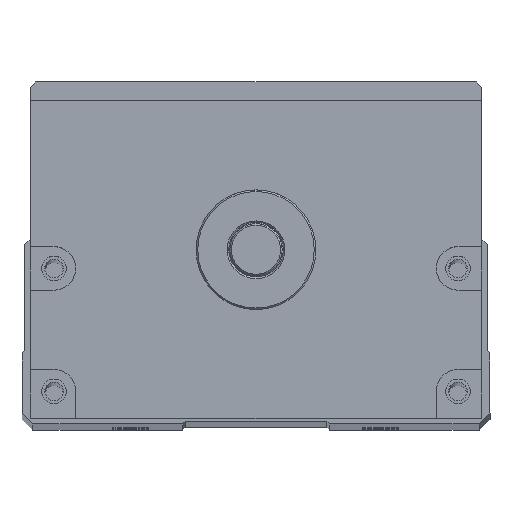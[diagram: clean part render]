
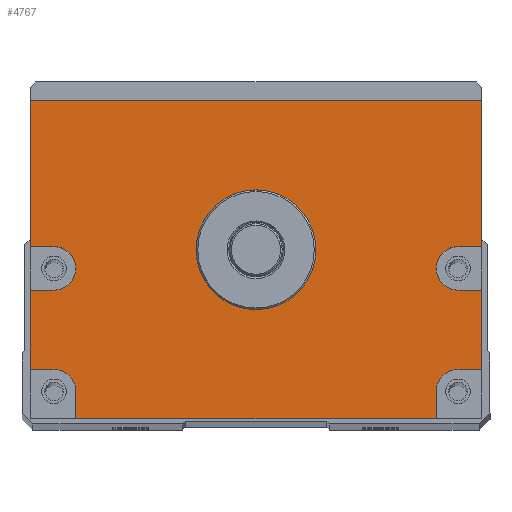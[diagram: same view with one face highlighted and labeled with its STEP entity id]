
A CAD part, top view. The second image highlights one B-rep face of the part: STEP entity #4767.
In plain terms, the highlighted planar face has unit normal (0, 0, 1).
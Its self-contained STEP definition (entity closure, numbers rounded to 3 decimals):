
#3458=FACE_BOUND('',#6279,.T.);
#3459=FACE_BOUND('',#6280,.T.);
#3930=CIRCLE('',#14069,11.);
#3941=CIRCLE('',#14083,4.);
#3942=CIRCLE('',#14084,4.);
#3943=CIRCLE('',#14085,4.);
#3944=CIRCLE('',#14086,4.);
#4767=ADVANCED_FACE('',(#3458,#3459),#5206,.T.);
#5206=PLANE('',#14087);
#6279=EDGE_LOOP('',(#8468,#8469,#8470,#8471,#8472,#8473,#8474,#8475,#8476,
#8477,#8478,#8479,#8480,#8481,#8482,#8483,#8484,#8485));
#6280=EDGE_LOOP('',(#8486));
#8468=ORIENTED_EDGE('',*,*,#11487,.F.);
#8469=ORIENTED_EDGE('',*,*,#11488,.T.);
#8470=ORIENTED_EDGE('',*,*,#11489,.F.);
#8471=ORIENTED_EDGE('',*,*,#11490,.F.);
#8472=ORIENTED_EDGE('',*,*,#11491,.F.);
#8473=ORIENTED_EDGE('',*,*,#11492,.T.);
#8474=ORIENTED_EDGE('',*,*,#11483,.T.);
#8475=ORIENTED_EDGE('',*,*,#11493,.T.);
#8476=ORIENTED_EDGE('',*,*,#11494,.F.);
#8477=ORIENTED_EDGE('',*,*,#11495,.F.);
#8478=ORIENTED_EDGE('',*,*,#11496,.F.);
#8479=ORIENTED_EDGE('',*,*,#11497,.T.);
#8480=ORIENTED_EDGE('',*,*,#11498,.F.);
#8481=ORIENTED_EDGE('',*,*,#11499,.F.);
#8482=ORIENTED_EDGE('',*,*,#11500,.F.);
#8483=ORIENTED_EDGE('',*,*,#11501,.T.);
#8484=ORIENTED_EDGE('',*,*,#11502,.F.);
#8485=ORIENTED_EDGE('',*,*,#11503,.F.);
#8486=ORIENTED_EDGE('',*,*,#11469,.T.);
#10166=VERTEX_POINT('',#20475);
#10179=VERTEX_POINT('',#20503);
#10180=VERTEX_POINT('',#20505);
#10183=VERTEX_POINT('',#20513);
#10184=VERTEX_POINT('',#20514);
#10185=VERTEX_POINT('',#20516);
#10186=VERTEX_POINT('',#20518);
#10187=VERTEX_POINT('',#20520);
#10188=VERTEX_POINT('',#20522);
#10189=VERTEX_POINT('',#20525);
#10190=VERTEX_POINT('',#20527);
#10191=VERTEX_POINT('',#20529);
#10192=VERTEX_POINT('',#20531);
#10193=VERTEX_POINT('',#20533);
#10194=VERTEX_POINT('',#20535);
#10195=VERTEX_POINT('',#20537);
#10196=VERTEX_POINT('',#20539);
#10197=VERTEX_POINT('',#20541);
#10198=VERTEX_POINT('',#20543);
#11469=EDGE_CURVE('',#10166,#10166,#3930,.T.);
#11483=EDGE_CURVE('',#10180,#10179,#12494,.T.);
#11487=EDGE_CURVE('',#10183,#10184,#12496,.T.);
#11488=EDGE_CURVE('',#10183,#10185,#12497,.T.);
#11489=EDGE_CURVE('',#10186,#10185,#12498,.T.);
#11490=EDGE_CURVE('',#10187,#10186,#3941,.T.);
#11491=EDGE_CURVE('',#10188,#10187,#12499,.T.);
#11492=EDGE_CURVE('',#10188,#10180,#12500,.T.);
#11493=EDGE_CURVE('',#10179,#10189,#12501,.T.);
#11494=EDGE_CURVE('',#10190,#10189,#12502,.T.);
#11495=EDGE_CURVE('',#10191,#10190,#3942,.T.);
#11496=EDGE_CURVE('',#10192,#10191,#12503,.T.);
#11497=EDGE_CURVE('',#10192,#10193,#12504,.T.);
#11498=EDGE_CURVE('',#10194,#10193,#12505,.T.);
#11499=EDGE_CURVE('',#10195,#10194,#3943,.T.);
#11500=EDGE_CURVE('',#10196,#10195,#12506,.T.);
#11501=EDGE_CURVE('',#10196,#10197,#12507,.T.);
#11502=EDGE_CURVE('',#10198,#10197,#12508,.T.);
#11503=EDGE_CURVE('',#10184,#10198,#3944,.T.);
#12494=LINE('',#20504,#13207);
#12496=LINE('',#20512,#13209);
#12497=LINE('',#20515,#13210);
#12498=LINE('',#20517,#13211);
#12499=LINE('',#20521,#13212);
#12500=LINE('',#20523,#13213);
#12501=LINE('',#20524,#13214);
#12502=LINE('',#20526,#13215);
#12503=LINE('',#20530,#13216);
#12504=LINE('',#20532,#13217);
#12505=LINE('',#20534,#13218);
#12506=LINE('',#20538,#13219);
#12507=LINE('',#20540,#13220);
#12508=LINE('',#20542,#13221);
#13207=VECTOR('',#16252,1.);
#13209=VECTOR('',#16260,1.);
#13210=VECTOR('',#16261,1.);
#13211=VECTOR('',#16262,1.);
#13212=VECTOR('',#16265,1.);
#13213=VECTOR('',#16266,1.);
#13214=VECTOR('',#16267,1.);
#13215=VECTOR('',#16268,1.);
#13216=VECTOR('',#16271,1.);
#13217=VECTOR('',#16272,1.);
#13218=VECTOR('',#16273,1.);
#13219=VECTOR('',#16276,1.);
#13220=VECTOR('',#16277,1.);
#13221=VECTOR('',#16278,1.);
#14069=AXIS2_PLACEMENT_3D('',#20474,#16225,#16226);
#14083=AXIS2_PLACEMENT_3D('',#20519,#16263,#16264);
#14084=AXIS2_PLACEMENT_3D('',#20528,#16269,#16270);
#14085=AXIS2_PLACEMENT_3D('',#20536,#16274,#16275);
#14086=AXIS2_PLACEMENT_3D('',#20544,#16279,#16280);
#14087=AXIS2_PLACEMENT_3D('',#20545,#16281,#16282);
#16225=DIRECTION('',(0.,0.,-1.));
#16226=DIRECTION('',(1.,0.,0.));
#16252=DIRECTION('',(-1.,0.,0.));
#16260=DIRECTION('',(-1.,0.,0.));
#16261=DIRECTION('',(0.,1.,0.));
#16262=DIRECTION('',(1.,0.,0.));
#16263=DIRECTION('',(0.,0.,1.));
#16264=DIRECTION('',(1.,0.,0.));
#16265=DIRECTION('',(-1.,0.,0.));
#16266=DIRECTION('',(0.,1.,0.));
#16267=DIRECTION('',(0.,-1.,0.));
#16268=DIRECTION('',(-1.,0.,0.));
#16269=DIRECTION('',(0.,0.,1.));
#16270=DIRECTION('',(1.,0.,0.));
#16271=DIRECTION('',(1.,0.,0.));
#16272=DIRECTION('',(0.,-1.,0.));
#16273=DIRECTION('',(-1.,0.,0.));
#16274=DIRECTION('',(0.,0.,1.));
#16275=DIRECTION('',(1.,0.,0.));
#16276=DIRECTION('',(0.,1.,0.));
#16277=DIRECTION('',(1.,0.,0.));
#16278=DIRECTION('',(0.,-1.,0.));
#16279=DIRECTION('',(0.,0.,1.));
#16280=DIRECTION('',(1.,0.,0.));
#16281=DIRECTION('',(0.,0.,1.));
#16282=DIRECTION('',(1.,0.,0.));
#20474=CARTESIAN_POINT('',(300.,0.,482.5));
#20475=CARTESIAN_POINT('',(311.,0.,482.5));
#20503=CARTESIAN_POINT('',(258.5,27.5,482.5));
#20504=CARTESIAN_POINT('',(341.5,27.5,482.5));
#20505=CARTESIAN_POINT('',(341.5,27.5,482.5));
#20512=CARTESIAN_POINT('',(341.5,-22.,482.5));
#20513=CARTESIAN_POINT('',(341.5,-22.,482.5));
#20514=CARTESIAN_POINT('',(337.115,-22.,482.5));
#20515=CARTESIAN_POINT('',(341.5,-31.,482.5));
#20516=CARTESIAN_POINT('',(341.5,-7.431,482.5));
#20517=CARTESIAN_POINT('',(341.5,-7.431,482.5));
#20518=CARTESIAN_POINT('',(337.115,-7.431,482.5));
#20519=CARTESIAN_POINT('',(337.115,-3.431,482.5));
#20520=CARTESIAN_POINT('',(337.115,0.569,482.5));
#20521=CARTESIAN_POINT('',(341.5,0.569,482.5));
#20522=CARTESIAN_POINT('',(341.5,0.569,482.5));
#20523=CARTESIAN_POINT('',(341.5,-31.,482.5));
#20524=CARTESIAN_POINT('',(258.5,27.5,482.5));
#20525=CARTESIAN_POINT('',(258.5,0.569,482.5));
#20526=CARTESIAN_POINT('',(341.5,0.569,482.5));
#20527=CARTESIAN_POINT('',(262.885,0.569,482.5));
#20528=CARTESIAN_POINT('',(262.885,-3.431,482.5));
#20529=CARTESIAN_POINT('',(262.885,-7.431,482.5));
#20530=CARTESIAN_POINT('',(341.5,-7.431,482.5));
#20531=CARTESIAN_POINT('',(258.5,-7.431,482.5));
#20532=CARTESIAN_POINT('',(258.5,27.5,482.5));
#20533=CARTESIAN_POINT('',(258.5,-22.,482.5));
#20534=CARTESIAN_POINT('',(341.5,-22.,482.5));
#20535=CARTESIAN_POINT('',(262.885,-22.,482.5));
#20536=CARTESIAN_POINT('',(262.885,-26.,482.5));
#20537=CARTESIAN_POINT('',(266.885,-26.,482.5));
#20538=CARTESIAN_POINT('',(266.885,-31.,482.5));
#20539=CARTESIAN_POINT('',(266.885,-31.,482.5));
#20540=CARTESIAN_POINT('',(258.5,-31.,482.5));
#20541=CARTESIAN_POINT('',(333.115,-31.,482.5));
#20542=CARTESIAN_POINT('',(333.115,-31.,482.5));
#20543=CARTESIAN_POINT('',(333.115,-26.,482.5));
#20544=CARTESIAN_POINT('',(337.115,-26.,482.5));
#20545=CARTESIAN_POINT('',(341.5,-31.,482.5));
